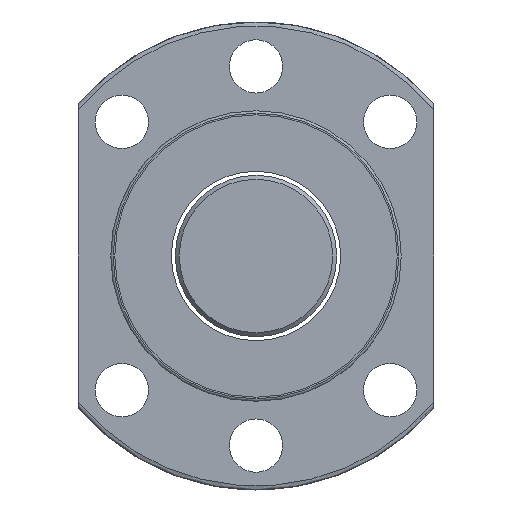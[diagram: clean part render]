
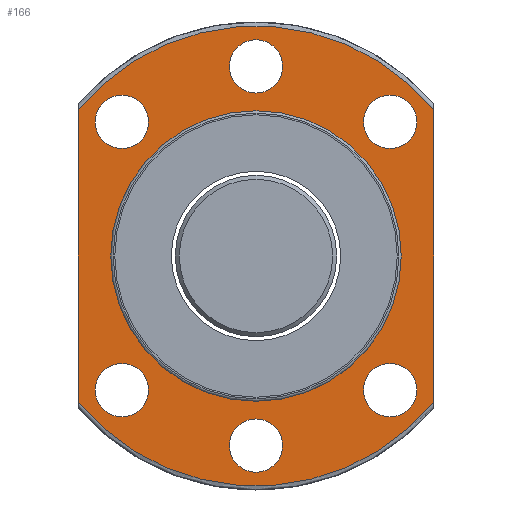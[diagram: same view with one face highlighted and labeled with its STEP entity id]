
A CAD part, left-side view. The second image highlights one B-rep face of the part: STEP entity #166.
In plain terms, the highlighted planar face has unit normal (-1, 0, 0).
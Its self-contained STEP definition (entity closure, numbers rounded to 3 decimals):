
#97=LINE('',#973,#105);
#98=LINE('',#974,#106);
#105=VECTOR('',#751,1.);
#106=VECTOR('',#752,1.);
#166=ADVANCED_FACE('',(#213,#214,#215,#216,#217,#218,#219,#260),#191,.F.);
#191=PLANE('',#633);
#213=FACE_BOUND('',#296,.T.);
#214=FACE_BOUND('',#297,.T.);
#215=FACE_BOUND('',#298,.T.);
#216=FACE_BOUND('',#299,.T.);
#217=FACE_BOUND('',#300,.T.);
#218=FACE_BOUND('',#301,.T.);
#219=FACE_BOUND('',#302,.T.);
#260=FACE_OUTER_BOUND('',#303,.T.);
#296=EDGE_LOOP('',(#377));
#297=EDGE_LOOP('',(#378));
#298=EDGE_LOOP('',(#379));
#299=EDGE_LOOP('',(#380));
#300=EDGE_LOOP('',(#381));
#301=EDGE_LOOP('',(#382));
#302=EDGE_LOOP('',(#383));
#303=EDGE_LOOP('',(#384,#385,#386,#387));
#377=ORIENTED_EDGE('',*,*,#520,.T.);
#378=ORIENTED_EDGE('',*,*,#521,.T.);
#379=ORIENTED_EDGE('',*,*,#522,.T.);
#380=ORIENTED_EDGE('',*,*,#523,.T.);
#381=ORIENTED_EDGE('',*,*,#524,.T.);
#382=ORIENTED_EDGE('',*,*,#525,.T.);
#383=ORIENTED_EDGE('',*,*,#526,.T.);
#384=ORIENTED_EDGE('',*,*,#527,.F.);
#385=ORIENTED_EDGE('',*,*,#528,.T.);
#386=ORIENTED_EDGE('',*,*,#513,.F.);
#387=ORIENTED_EDGE('',*,*,#529,.F.);
#464=VERTEX_POINT('',#883);
#466=VERTEX_POINT('',#905);
#471=VERTEX_POINT('',#957);
#472=VERTEX_POINT('',#959);
#473=VERTEX_POINT('',#961);
#474=VERTEX_POINT('',#963);
#475=VERTEX_POINT('',#965);
#476=VERTEX_POINT('',#967);
#477=VERTEX_POINT('',#969);
#478=VERTEX_POINT('',#971);
#479=VERTEX_POINT('',#972);
#513=EDGE_CURVE('',#466,#464,#566,.T.);
#520=EDGE_CURVE('',#471,#471,#569,.T.);
#521=EDGE_CURVE('',#472,#472,#570,.T.);
#522=EDGE_CURVE('',#473,#473,#571,.T.);
#523=EDGE_CURVE('',#474,#474,#572,.T.);
#524=EDGE_CURVE('',#475,#475,#573,.T.);
#525=EDGE_CURVE('',#476,#476,#574,.T.);
#526=EDGE_CURVE('',#477,#477,#575,.T.);
#527=EDGE_CURVE('',#478,#479,#576,.T.);
#528=EDGE_CURVE('',#478,#464,#97,.T.);
#529=EDGE_CURVE('',#479,#466,#98,.T.);
#566=CIRCLE('',#619,28.5);
#569=CIRCLE('',#625,3.3);
#570=CIRCLE('',#626,3.3);
#571=CIRCLE('',#627,3.3);
#572=CIRCLE('',#628,3.3);
#573=CIRCLE('',#629,3.3);
#574=CIRCLE('',#630,3.3);
#575=CIRCLE('',#631,18.);
#576=CIRCLE('',#632,28.5);
#619=AXIS2_PLACEMENT_3D('',#906,#721,#722);
#625=AXIS2_PLACEMENT_3D('',#956,#735,#736);
#626=AXIS2_PLACEMENT_3D('',#958,#737,#738);
#627=AXIS2_PLACEMENT_3D('',#960,#739,#740);
#628=AXIS2_PLACEMENT_3D('',#962,#741,#742);
#629=AXIS2_PLACEMENT_3D('',#964,#743,#744);
#630=AXIS2_PLACEMENT_3D('',#966,#745,#746);
#631=AXIS2_PLACEMENT_3D('',#968,#747,#748);
#632=AXIS2_PLACEMENT_3D('',#970,#749,#750);
#633=AXIS2_PLACEMENT_3D('',#975,#753,#754);
#721=DIRECTION('',(1.,0.,0.));
#722=DIRECTION('',(0.,0.,-1.));
#735=DIRECTION('',(1.,0.,0.));
#736=DIRECTION('',(0.,0.,-1.));
#737=DIRECTION('',(1.,0.,0.));
#738=DIRECTION('',(0.,0.,-1.));
#739=DIRECTION('',(1.,0.,0.));
#740=DIRECTION('',(0.,0.,-1.));
#741=DIRECTION('',(1.,0.,0.));
#742=DIRECTION('',(0.,0.,-1.));
#743=DIRECTION('',(1.,0.,0.));
#744=DIRECTION('',(0.,0.,-1.));
#745=DIRECTION('',(1.,0.,0.));
#746=DIRECTION('',(0.,0.,-1.));
#747=DIRECTION('',(1.,0.,0.));
#748=DIRECTION('',(0.,0.,-1.));
#749=DIRECTION('',(1.,0.,0.));
#750=DIRECTION('',(0.,0.,-1.));
#751=DIRECTION('',(0.,0.,-1.));
#752=DIRECTION('',(0.,0.,-1.));
#753=DIRECTION('',(1.,0.,0.));
#754=DIRECTION('',(0.,0.,-1.));
#883=CARTESIAN_POINT('',(-24.089,22.,-18.118));
#905=CARTESIAN_POINT('',(-24.089,-22.,-18.118));
#906=CARTESIAN_POINT('',(-24.089,0.,0.));
#956=CARTESIAN_POINT('',(-24.089,0.,-23.5));
#957=CARTESIAN_POINT('',(-24.089,0.,-26.8));
#958=CARTESIAN_POINT('',(-24.089,16.617,-16.617));
#959=CARTESIAN_POINT('',(-24.089,16.617,-19.917));
#960=CARTESIAN_POINT('',(-24.089,-16.617,-16.617));
#961=CARTESIAN_POINT('',(-24.089,-16.617,-19.917));
#962=CARTESIAN_POINT('',(-24.089,0.,23.5));
#963=CARTESIAN_POINT('',(-24.089,0.,20.2));
#964=CARTESIAN_POINT('',(-24.089,-16.617,16.617));
#965=CARTESIAN_POINT('',(-24.089,-16.617,13.317));
#966=CARTESIAN_POINT('',(-24.089,16.617,16.617));
#967=CARTESIAN_POINT('',(-24.089,16.617,13.317));
#968=CARTESIAN_POINT('',(-24.089,0.,0.));
#969=CARTESIAN_POINT('',(-24.089,0.,-18.));
#970=CARTESIAN_POINT('',(-24.089,0.,0.));
#971=CARTESIAN_POINT('',(-24.089,22.,18.118));
#972=CARTESIAN_POINT('',(-24.089,-22.,18.118));
#973=CARTESIAN_POINT('',(-24.089,22.,0.));
#974=CARTESIAN_POINT('',(-24.089,-22.,0.));
#975=CARTESIAN_POINT('',(-24.089,23.25,0.));
